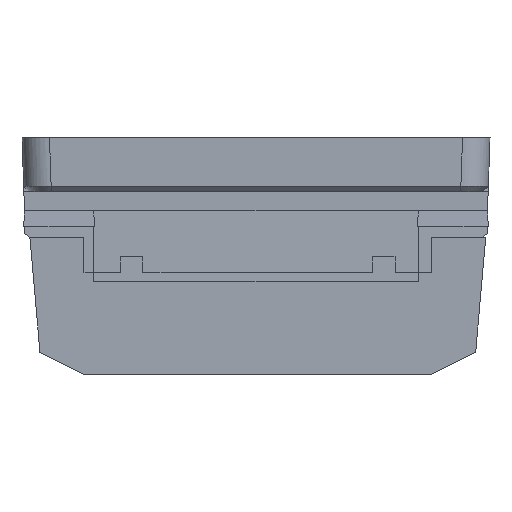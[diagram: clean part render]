
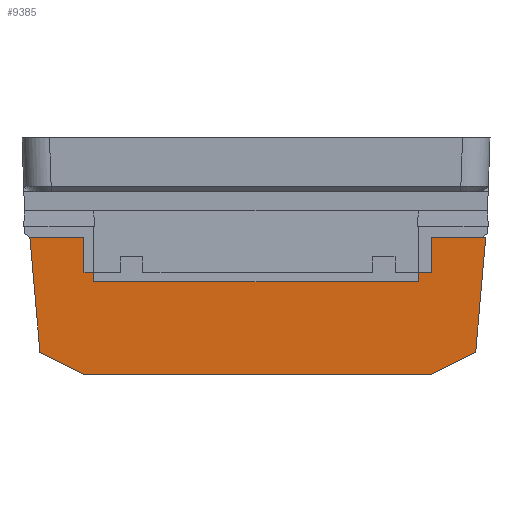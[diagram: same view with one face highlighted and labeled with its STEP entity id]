
A CAD part, front view. The second image highlights one B-rep face of the part: STEP entity #9385.
In plain terms, the highlighted planar face has unit normal (0, -0.999, -0.035) as drawn and (0, -0.999, 0.035) by its records, which use the part's own axes.
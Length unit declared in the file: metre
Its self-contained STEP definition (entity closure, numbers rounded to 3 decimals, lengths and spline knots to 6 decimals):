
#2515=ORIENTED_EDGE('',*,*,#4214,.T.);
#2516=ORIENTED_EDGE('',*,*,#4215,.T.);
#2517=ORIENTED_EDGE('',*,*,#4139,.T.);
#2518=ORIENTED_EDGE('',*,*,#4216,.F.);
#2519=ORIENTED_EDGE('',*,*,#4217,.T.);
#2520=ORIENTED_EDGE('',*,*,#4197,.F.);
#2521=ORIENTED_EDGE('',*,*,#4218,.T.);
#2522=ORIENTED_EDGE('',*,*,#4211,.T.);
#2523=ORIENTED_EDGE('',*,*,#4091,.T.);
#2524=ORIENTED_EDGE('',*,*,#4219,.F.);
#2525=ORIENTED_EDGE('',*,*,#4220,.F.);
#2526=ORIENTED_EDGE('',*,*,#4221,.F.);
#2527=ORIENTED_EDGE('',*,*,#4222,.F.);
#2528=ORIENTED_EDGE('',*,*,#4223,.F.);
#2529=ORIENTED_EDGE('',*,*,#4224,.T.);
#2530=ORIENTED_EDGE('',*,*,#4225,.T.);
#2531=ORIENTED_EDGE('',*,*,#4226,.T.);
#2532=ORIENTED_EDGE('',*,*,#4227,.T.);
#4091=EDGE_CURVE('',#5099,#5104,#6079,.F.);
#4139=EDGE_CURVE('',#5149,#5148,#6127,.F.);
#4197=EDGE_CURVE('',#5203,#5204,#6165,.F.);
#4211=EDGE_CURVE('',#5217,#5099,#6175,.F.);
#4214=EDGE_CURVE('',#5218,#5219,#6178,.T.);
#4215=EDGE_CURVE('',#5219,#5149,#6179,.T.);
#4216=EDGE_CURVE('',#5220,#5148,#6180,.T.);
#4217=EDGE_CURVE('',#5220,#5204,#6181,.F.);
#4218=EDGE_CURVE('',#5203,#5217,#6182,.T.);
#4219=EDGE_CURVE('',#5221,#5104,#6183,.T.);
#4220=EDGE_CURVE('',#5222,#5221,#6184,.T.);
#4221=EDGE_CURVE('',#5223,#5222,#6185,.T.);
#4222=EDGE_CURVE('',#5224,#5223,#6186,.T.);
#4223=EDGE_CURVE('',#5225,#5224,#6187,.T.);
#4224=EDGE_CURVE('',#5225,#5226,#6188,.T.);
#4225=EDGE_CURVE('',#5226,#5227,#6189,.T.);
#4226=EDGE_CURVE('',#5227,#5228,#6190,.T.);
#4227=EDGE_CURVE('',#5228,#5218,#6191,.T.);
#5099=VERTEX_POINT('',#15159);
#5104=VERTEX_POINT('',#15168);
#5148=VERTEX_POINT('',#15265);
#5149=VERTEX_POINT('',#15267);
#5203=VERTEX_POINT('',#15380);
#5204=VERTEX_POINT('',#15382);
#5217=VERTEX_POINT('',#15410);
#5218=VERTEX_POINT('',#15415);
#5219=VERTEX_POINT('',#15416);
#5220=VERTEX_POINT('',#15419);
#5221=VERTEX_POINT('',#15423);
#5222=VERTEX_POINT('',#15425);
#5223=VERTEX_POINT('',#15427);
#5224=VERTEX_POINT('',#15429);
#5225=VERTEX_POINT('',#15431);
#5226=VERTEX_POINT('',#15433);
#5227=VERTEX_POINT('',#15435);
#5228=VERTEX_POINT('',#15437);
#6079=LINE('',#15169,#7094);
#6127=LINE('',#15266,#7142);
#6165=LINE('',#15381,#7180);
#6175=LINE('',#15409,#7190);
#6178=LINE('',#15414,#7193);
#6179=LINE('',#15417,#7194);
#6180=LINE('',#15418,#7195);
#6181=LINE('',#15420,#7196);
#6182=LINE('',#15421,#7197);
#6183=LINE('',#15422,#7198);
#6184=LINE('',#15424,#7199);
#6185=LINE('',#15426,#7200);
#6186=LINE('',#15428,#7201);
#6187=LINE('',#15430,#7202);
#6188=LINE('',#15432,#7203);
#6189=LINE('',#15434,#7204);
#6190=LINE('',#15436,#7205);
#6191=LINE('',#15438,#7206);
#7094=VECTOR('',#12082,1.);
#7142=VECTOR('',#12140,1.);
#7180=VECTOR('',#12222,1.);
#7190=VECTOR('',#12242,1.);
#7193=VECTOR('',#12247,1.);
#7194=VECTOR('',#12248,1.);
#7195=VECTOR('',#12249,1.);
#7196=VECTOR('',#12250,1.);
#7197=VECTOR('',#12251,1.);
#7198=VECTOR('',#12252,1.);
#7199=VECTOR('',#12253,1.);
#7200=VECTOR('',#12254,1.);
#7201=VECTOR('',#12255,1.);
#7202=VECTOR('',#12256,1.);
#7203=VECTOR('',#12257,1.);
#7204=VECTOR('',#12258,1.);
#7205=VECTOR('',#12259,1.);
#7206=VECTOR('',#12260,1.);
#7866=EDGE_LOOP('',(#2515,#2516,#2517,#2518,#2519,#2520,#2521,#2522,#2523,
#2524,#2525,#2526,#2527,#2528,#2529,#2530,#2531,#2532));
#8473=FACE_BOUND('',#7866,.T.);
#8917=PLANE('',#10134);
#9385=ADVANCED_FACE('',(#8473),#8917,.T.);
#10134=AXIS2_PLACEMENT_3D('',#15413,#12245,#12246);
#12082=DIRECTION('',(-1.,0.,0.));
#12140=DIRECTION('',(-1.,0.,0.));
#12222=DIRECTION('',(-1.,0.,0.));
#12242=DIRECTION('',(0.087,0.035,0.996));
#12245=DIRECTION('',(0.,-0.999,0.035));
#12246=DIRECTION('',(0.,-0.035,-0.999));
#12247=DIRECTION('',(1.,0.,0.));
#12248=DIRECTION('',(0.,-0.035,-0.999));
#12249=DIRECTION('',(0.087,-0.035,-0.996));
#12250=DIRECTION('',(0.894,-0.016,-0.447));
#12251=DIRECTION('',(-0.894,-0.016,-0.447));
#12252=DIRECTION('',(0.,-0.035,-0.999));
#12253=DIRECTION('',(-1.,0.,0.));
#12254=DIRECTION('',(0.,0.035,0.999));
#12255=DIRECTION('',(-1.,0.,0.));
#12256=DIRECTION('',(0.,-0.035,-0.999));
#12257=DIRECTION('',(1.,0.,0.));
#12258=DIRECTION('',(0.,-0.035,-0.999));
#12259=DIRECTION('',(1.,0.,0.));
#12260=DIRECTION('',(0.,0.035,0.999));
#15159=CARTESIAN_POINT('',(0.,0.,0.));
#15168=CARTESIAN_POINT('',(0.01,0.,0.));
#15169=CARTESIAN_POINT('',(0.042125,0.,0.));
#15265=CARTESIAN_POINT('',(0.08425,0.,0.));
#15266=CARTESIAN_POINT('',(0.042125,0.,0.));
#15267=CARTESIAN_POINT('',(0.07425,0.,0.));
#15380=CARTESIAN_POINT('',(0.01,0.000884,0.02531));
#15381=CARTESIAN_POINT('',(0.042125,0.000884,0.02531));
#15382=CARTESIAN_POINT('',(0.07425,0.000884,0.02531));
#15409=CARTESIAN_POINT('',(0.000084,0.000033,0.000954));
#15410=CARTESIAN_POINT('',(0.001858,0.000742,0.021239));
#15413=CARTESIAN_POINT('',(0.042125,0.,0.));
#15414=CARTESIAN_POINT('',(0.070867,0.000227,0.006486));
#15415=CARTESIAN_POINT('',(0.067485,0.000227,0.006486));
#15416=CARTESIAN_POINT('',(0.07425,0.000227,0.006486));
#15417=CARTESIAN_POINT('',(0.07425,0.000113,0.003243));
#15418=CARTESIAN_POINT('',(0.084166,0.000033,0.000954));
#15419=CARTESIAN_POINT('',(0.082392,0.000742,0.021239));
#15420=CARTESIAN_POINT('',(0.073877,0.00089,0.025496));
#15421=CARTESIAN_POINT('',(0.000375,0.000716,0.020498));
#15422=CARTESIAN_POINT('',(0.01,0.000113,0.003243));
#15423=CARTESIAN_POINT('',(0.01,0.000227,0.006486));
#15424=CARTESIAN_POINT('',(0.013383,0.000227,0.006486));
#15425=CARTESIAN_POINT('',(0.016765,0.000227,0.006486));
#15426=CARTESIAN_POINT('',(0.016765,0.000176,0.005048));
#15427=CARTESIAN_POINT('',(0.016765,0.000126,0.003609));
#15428=CARTESIAN_POINT('',(0.01883,0.000126,0.003609));
#15429=CARTESIAN_POINT('',(0.020896,0.000126,0.003609));
#15430=CARTESIAN_POINT('',(0.020896,0.000176,0.005048));
#15431=CARTESIAN_POINT('',(0.020896,0.000227,0.006486));
#15432=CARTESIAN_POINT('',(0.042125,0.000227,0.006486));
#15433=CARTESIAN_POINT('',(0.063354,0.000227,0.006486));
#15434=CARTESIAN_POINT('',(0.063354,0.000176,0.005048));
#15435=CARTESIAN_POINT('',(0.063354,0.000126,0.003609));
#15436=CARTESIAN_POINT('',(0.06542,0.000126,0.003609));
#15437=CARTESIAN_POINT('',(0.067485,0.000126,0.003609));
#15438=CARTESIAN_POINT('',(0.067485,0.000176,0.005048));
